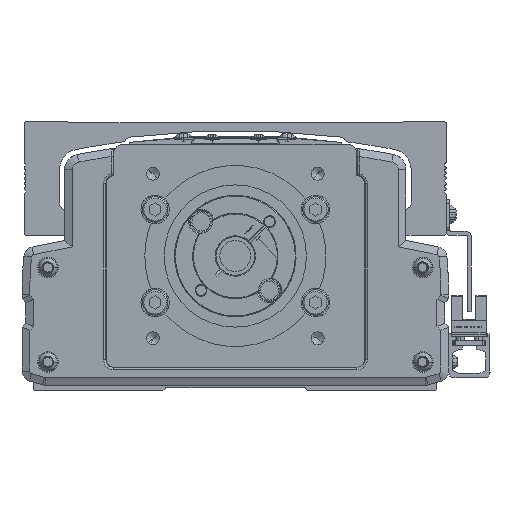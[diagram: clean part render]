
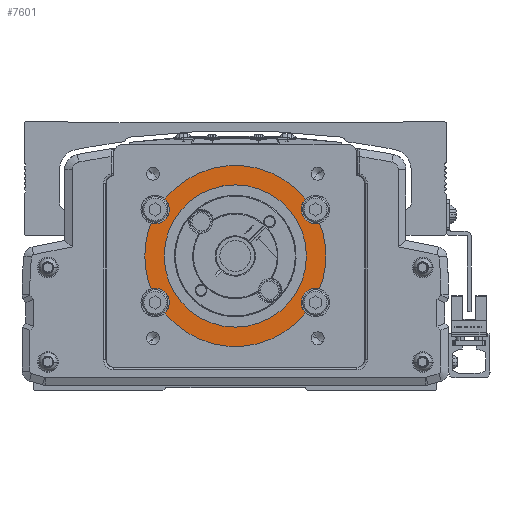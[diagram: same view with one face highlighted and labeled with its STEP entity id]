
A CAD part, front view. The second image highlights one B-rep face of the part: STEP entity #7601.
In plain terms, the highlighted planar face has unit normal (0, -1, 0).
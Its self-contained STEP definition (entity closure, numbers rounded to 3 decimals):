
#7601=ADVANCED_FACE('',(#16801,#16802),#16803,.F.);
#16801=FACE_OUTER_BOUND('',#29807,.T.);
#16802=FACE_BOUND('',#29808,.T.);
#16803=PLANE('',#29809);
#29807=EDGE_LOOP('',(#52377,#52378,#52379,#52380,#52381,#52382,#52383,#52384,#52385,#52386,#52387,#52388,#52389,#52390));
#29808=EDGE_LOOP('',(#52391,#52392));
#29809=AXIS2_PLACEMENT_3D('',#52393,#52394,#52395);
#52377=ORIENTED_EDGE('',*,*,#76641,.F.);
#52378=ORIENTED_EDGE('',*,*,#70017,.T.);
#52379=ORIENTED_EDGE('',*,*,#77058,.T.);
#52380=ORIENTED_EDGE('',*,*,#77059,.F.);
#52381=ORIENTED_EDGE('',*,*,#77060,.F.);
#52382=ORIENTED_EDGE('',*,*,#77061,.T.);
#52383=ORIENTED_EDGE('',*,*,#70993,.F.);
#52384=ORIENTED_EDGE('',*,*,#70338,.F.);
#52385=ORIENTED_EDGE('',*,*,#77062,.T.);
#52386=ORIENTED_EDGE('',*,*,#77056,.T.);
#52387=ORIENTED_EDGE('',*,*,#77063,.F.);
#52388=ORIENTED_EDGE('',*,*,#70207,.F.);
#52389=ORIENTED_EDGE('',*,*,#77064,.T.);
#52390=ORIENTED_EDGE('',*,*,#77065,.F.);
#52391=ORIENTED_EDGE('',*,*,#72153,.F.);
#52392=ORIENTED_EDGE('',*,*,#77066,.F.);
#52393=CARTESIAN_POINT('',(-600.,3.222,0.));
#52394=DIRECTION('',(0.,1.0,0.));
#52395=DIRECTION('',(-1.0,0.,0.));
#70017=EDGE_CURVE('',#83739,#83736,#83740,.T.);
#70207=EDGE_CURVE('',#84069,#84071,#84072,.T.);
#70338=EDGE_CURVE('',#84299,#84301,#84302,.T.);
#70993=EDGE_CURVE('',#84301,#85432,#85433,.T.);
#72153=EDGE_CURVE('',#87365,#87363,#87367,.T.);
#76641=EDGE_CURVE('',#83739,#94218,#94219,.T.);
#77056=EDGE_CURVE('',#94788,#94792,#94794,.T.);
#77058=EDGE_CURVE('',#83736,#94796,#94797,.T.);
#77059=EDGE_CURVE('',#94798,#94796,#94799,.T.);
#77060=EDGE_CURVE('',#94800,#94798,#94801,.T.);
#77061=EDGE_CURVE('',#94800,#85432,#94802,.T.);
#77062=EDGE_CURVE('',#84299,#94788,#94803,.T.);
#77063=EDGE_CURVE('',#84071,#94792,#94804,.T.);
#77064=EDGE_CURVE('',#84069,#94805,#94806,.T.);
#77065=EDGE_CURVE('',#94218,#94805,#94807,.T.);
#77066=EDGE_CURVE('',#87363,#87365,#94808,.T.);
#83736=VERTEX_POINT('',#103263);
#83739=VERTEX_POINT('',#103267);
#83740=CIRCLE('',#103268,35.0);
#84069=VERTEX_POINT('',#103777);
#84071=VERTEX_POINT('',#103780);
#84072=CIRCLE('',#103781,5.5);
#84299=VERTEX_POINT('',#104092);
#84301=VERTEX_POINT('',#104095);
#84302=CIRCLE('',#104096,5.5);
#85432=VERTEX_POINT('',#105783);
#85433=CIRCLE('',#105784,5.5);
#87363=VERTEX_POINT('',#108366);
#87365=VERTEX_POINT('',#108369);
#87367=CIRCLE('',#108372,27.5);
#94218=VERTEX_POINT('',#118599);
#94219=CIRCLE('',#118600,5.5);
#94788=VERTEX_POINT('',#119388);
#94792=VERTEX_POINT('',#119393);
#94794=CIRCLE('',#119396,35.0);
#94796=VERTEX_POINT('',#119398);
#94797=CIRCLE('',#119399,35.0);
#94798=VERTEX_POINT('',#119400);
#94799=CIRCLE('',#119401,5.5);
#94800=VERTEX_POINT('',#119402);
#94801=CIRCLE('',#119403,5.5);
#94802=CIRCLE('',#119404,35.0);
#94803=CIRCLE('',#119405,35.0);
#94804=CIRCLE('',#119406,5.5);
#94805=VERTEX_POINT('',#119407);
#94806=CIRCLE('',#119408,35.0);
#94807=CIRCLE('',#119409,5.5);
#94808=CIRCLE('',#119410,27.5);
#103263=CARTESIAN_POINT('',(-635.,3.222,0.));
#103267=CARTESIAN_POINT('',(-632.6,3.222,12.738));
#103268=AXIS2_PLACEMENT_3D('',#127926,#127927,#127928);
#103777=CARTESIAN_POINT('',(-572.777,3.222,21.998));
#103780=CARTESIAN_POINT('',(-574.5,3.222,18.));
#103781=AXIS2_PLACEMENT_3D('',#128170,#128171,#128172);
#104092=CARTESIAN_POINT('',(-567.4,3.222,-12.738));
#104095=CARTESIAN_POINT('',(-574.5,3.222,-18.));
#104096=AXIS2_PLACEMENT_3D('',#128344,#128345,#128346);
#105783=CARTESIAN_POINT('',(-572.777,3.222,-21.998));
#105784=AXIS2_PLACEMENT_3D('',#129272,#129273,#129274);
#108366=CARTESIAN_POINT('',(-627.5,3.222,0.));
#108369=CARTESIAN_POINT('',(-572.5,3.222,0.));
#108372=AXIS2_PLACEMENT_3D('',#131000,#131001,#131002);
#118599=CARTESIAN_POINT('',(-625.5,3.222,18.));
#118600=AXIS2_PLACEMENT_3D('',#137026,#137027,#137028);
#119388=CARTESIAN_POINT('',(-565.,3.222,0.));
#119393=CARTESIAN_POINT('',(-567.4,3.222,12.738));
#119396=AXIS2_PLACEMENT_3D('',#137516,#137517,#137518);
#119398=CARTESIAN_POINT('',(-632.6,3.222,-12.738));
#119399=AXIS2_PLACEMENT_3D('',#137519,#137520,#137521);
#119400=CARTESIAN_POINT('',(-625.5,3.222,-18.));
#119401=AXIS2_PLACEMENT_3D('',#137522,#137523,#137524);
#119402=CARTESIAN_POINT('',(-627.223,3.222,-21.998));
#119403=AXIS2_PLACEMENT_3D('',#137525,#137526,#137527);
#119404=AXIS2_PLACEMENT_3D('',#137528,#137529,#137530);
#119405=AXIS2_PLACEMENT_3D('',#137531,#137532,#137533);
#119406=AXIS2_PLACEMENT_3D('',#137534,#137535,#137536);
#119407=CARTESIAN_POINT('',(-627.223,3.222,21.998));
#119408=AXIS2_PLACEMENT_3D('',#137537,#137538,#137539);
#119409=AXIS2_PLACEMENT_3D('',#137540,#137541,#137542);
#119410=AXIS2_PLACEMENT_3D('',#137543,#137544,#137545);
#127926=CARTESIAN_POINT('',(-600.,3.222,0.));
#127927=DIRECTION('',(0.,-1.0,0.));
#127928=DIRECTION('',(-1.0,0.,0.));
#128170=CARTESIAN_POINT('',(-569.,3.222,18.));
#128171=DIRECTION('',(0.,-1.0,0.));
#128172=DIRECTION('',(1.0,0.,0.));
#128344=CARTESIAN_POINT('',(-569.,3.222,-18.));
#128345=DIRECTION('',(0.,-1.0,0.));
#128346=DIRECTION('',(1.0,0.,0.));
#129272=CARTESIAN_POINT('',(-569.,3.222,-18.));
#129273=DIRECTION('',(0.,-1.0,0.));
#129274=DIRECTION('',(1.0,0.,0.));
#131000=CARTESIAN_POINT('',(-600.,3.222,0.));
#131001=DIRECTION('',(0.,-1.0,0.));
#131002=DIRECTION('',(-1.0,0.,0.));
#137026=CARTESIAN_POINT('',(-631.,3.222,18.));
#137027=DIRECTION('',(0.,-1.0,0.));
#137028=DIRECTION('',(-1.0,0.,0.));
#137516=CARTESIAN_POINT('',(-600.,3.222,0.));
#137517=DIRECTION('',(0.,-1.0,0.));
#137518=DIRECTION('',(-1.0,0.,0.));
#137519=CARTESIAN_POINT('',(-600.,3.222,0.));
#137520=DIRECTION('',(0.,-1.0,0.));
#137521=DIRECTION('',(-1.0,0.,0.));
#137522=CARTESIAN_POINT('',(-631.,3.222,-18.));
#137523=DIRECTION('',(0.,-1.0,0.));
#137524=DIRECTION('',(-1.0,0.,0.));
#137525=CARTESIAN_POINT('',(-631.,3.222,-18.));
#137526=DIRECTION('',(0.,-1.0,0.));
#137527=DIRECTION('',(-1.0,0.,0.));
#137528=CARTESIAN_POINT('',(-600.,3.222,0.));
#137529=DIRECTION('',(0.,-1.0,0.));
#137530=DIRECTION('',(-1.0,0.,0.));
#137531=CARTESIAN_POINT('',(-600.,3.222,0.));
#137532=DIRECTION('',(0.,-1.0,0.));
#137533=DIRECTION('',(-1.0,0.,0.));
#137534=CARTESIAN_POINT('',(-569.,3.222,18.));
#137535=DIRECTION('',(0.,-1.0,0.));
#137536=DIRECTION('',(1.0,0.,0.));
#137537=CARTESIAN_POINT('',(-600.,3.222,0.));
#137538=DIRECTION('',(0.,-1.0,0.));
#137539=DIRECTION('',(-1.0,0.,0.));
#137540=CARTESIAN_POINT('',(-631.,3.222,18.));
#137541=DIRECTION('',(0.,-1.0,0.));
#137542=DIRECTION('',(-1.0,0.,0.));
#137543=CARTESIAN_POINT('',(-600.,3.222,0.));
#137544=DIRECTION('',(0.,-1.0,0.));
#137545=DIRECTION('',(-1.0,0.,0.));
